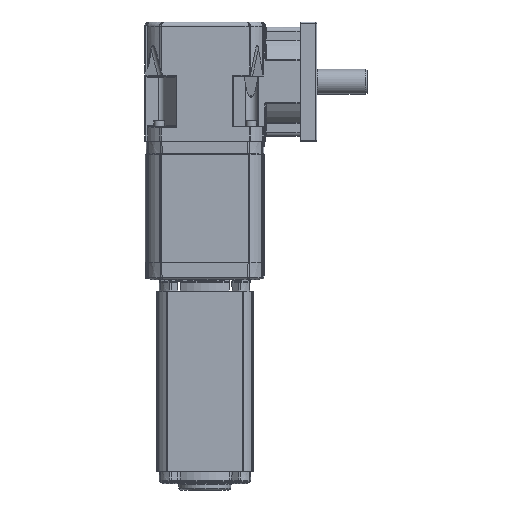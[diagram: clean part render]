
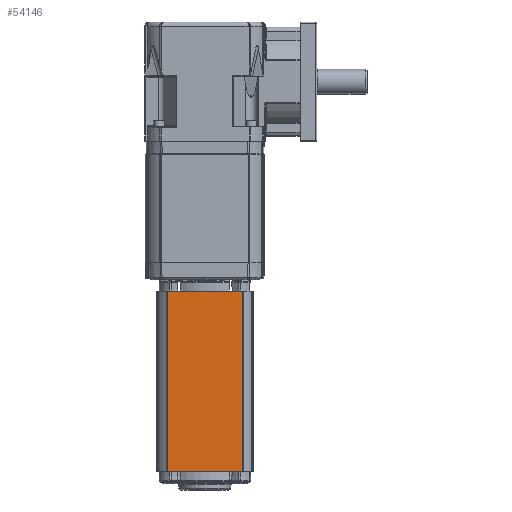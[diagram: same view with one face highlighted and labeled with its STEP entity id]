
A CAD part, front view. The second image highlights one B-rep face of the part: STEP entity #54146.
In plain terms, the highlighted planar face has unit normal (0, -1, 0).
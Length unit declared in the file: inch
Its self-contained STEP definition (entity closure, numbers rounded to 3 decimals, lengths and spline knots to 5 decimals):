
#2848 = DIRECTION ( 'NONE',  ( 0., 0., -1. ) ) ;
#2870 = CARTESIAN_POINT ( 'NONE',  ( -1.1475, -1.442, -11.738 ) ) ;
#3239 = EDGE_CURVE ( 'NONE', #14411, #44261, #27617, .T. ) ;
#5533 = VECTOR ( 'NONE', #73081, 39.37008 ) ;
#8830 = DIRECTION ( 'NONE',  ( 1., 0., 0. ) ) ;
#10596 = LINE ( 'NONE', #27621, #53706 ) ;
#12047 = VECTOR ( 'NONE', #2848, 39.37008 ) ;
#14113 = CARTESIAN_POINT ( 'NONE',  ( 1.1275, -1.442, -6.233 ) ) ;
#14411 = VERTEX_POINT ( 'NONE', #15913 ) ;
#14776 = DIRECTION ( 'NONE',  ( 0., 0., 1. ) ) ;
#14975 = AXIS2_PLACEMENT_3D ( 'NONE', #2870, #43940, #8830 ) ;
#15913 = CARTESIAN_POINT ( 'NONE',  ( -1.1275, -1.442, -6.233 ) ) ;
#17616 = ORIENTED_EDGE ( 'NONE', *, *, #3239, .T. ) ;
#17876 = VERTEX_POINT ( 'NONE', #14113 ) ;
#19050 = VERTEX_POINT ( 'NONE', #19343 ) ;
#19343 = CARTESIAN_POINT ( 'NONE',  ( 1.1275, -1.442, -11.603 ) ) ;
#20087 = PLANE ( 'NONE',  #14975 ) ;
#21126 = LINE ( 'NONE', #56115, #28473 ) ;
#27617 = LINE ( 'NONE', #46802, #12047 ) ;
#27621 = CARTESIAN_POINT ( 'NONE',  ( 1.1275, -1.442, -11.603 ) ) ;
#28473 = VECTOR ( 'NONE', #14776, 39.37008 ) ;
#33488 = DIRECTION ( 'NONE',  ( -1., 0., 0. ) ) ;
#43940 = DIRECTION ( 'NONE',  ( 0., -1., 0. ) ) ;
#44261 = VERTEX_POINT ( 'NONE', #62081 ) ;
#46127 = EDGE_CURVE ( 'NONE', #19050, #44261, #10596, .T. ) ;
#46802 = CARTESIAN_POINT ( 'NONE',  ( -1.1275, -1.442, -11.738 ) ) ;
#50417 = ORIENTED_EDGE ( 'NONE', *, *, #46127, .F. ) ;
#52363 = LINE ( 'NONE', #55169, #5533 ) ;
#53706 = VECTOR ( 'NONE', #33488, 39.37008 ) ;
#54146 = ADVANCED_FACE ( 'NONE', ( #55431 ), #20087, .T. ) ;
#54315 = ORIENTED_EDGE ( 'NONE', *, *, #70627, .T. ) ;
#55169 = CARTESIAN_POINT ( 'NONE',  ( -1.1475, -1.442, -6.233 ) ) ;
#55431 = FACE_OUTER_BOUND ( 'NONE', #63862, .T. ) ;
#56115 = CARTESIAN_POINT ( 'NONE',  ( 1.1275, -1.442, -11.738 ) ) ;
#62081 = CARTESIAN_POINT ( 'NONE',  ( -1.1275, -1.442, -11.603 ) ) ;
#63430 = ORIENTED_EDGE ( 'NONE', *, *, #68948, .F. ) ;
#63862 = EDGE_LOOP ( 'NONE', ( #17616, #50417, #54315, #63430 ) ) ;
#68948 = EDGE_CURVE ( 'NONE', #14411, #17876, #52363, .T. ) ;
#70627 = EDGE_CURVE ( 'NONE', #19050, #17876, #21126, .T. ) ;
#73081 = DIRECTION ( 'NONE',  ( 1., 0., 0. ) ) ;
